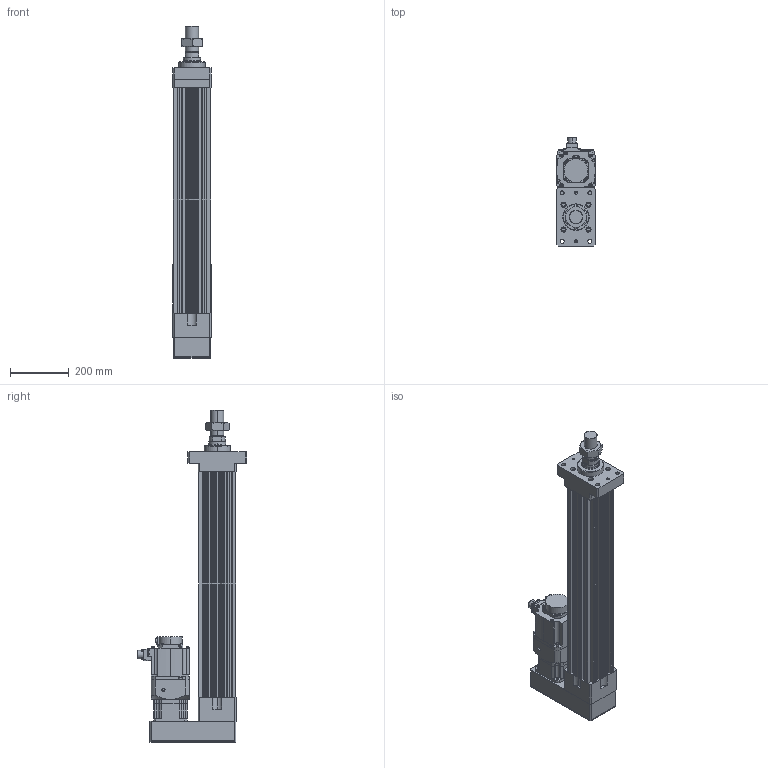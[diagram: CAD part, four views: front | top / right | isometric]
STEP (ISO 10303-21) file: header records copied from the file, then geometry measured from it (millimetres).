
FILE_DESCRIPTION (( 'STEP AP203' ), '1' );
FILE_NAME ('HES130NS(FS)(HS)-P550-W015G00-M-FMB.STEP', '2023-01-29T05:43:53', ( 'tms' ), ( '' ), 'SwSTEP 2.0', 'SolidWorks 2013', '' );
FILE_SCHEMA (( 'CONFIG_CONTROL_DESIGN' ));
Length unit declared in the file: millimetre
Products named in the file (8): HES130-P550-G120-FMB; AB115-003[HG-SR152]; HG-SR152; M45X1.5P; HES130NS(FS)(HS)-P550-W015G00-M-FMB; HES130 ROD M ST550; P0401400706; AB1151
Assembly tree (7 placements, depth 3):
  HES130NS(FS)(HS)-P550-W015G00-M-FMB
    HES130-P550-G120-FMB
    HES130 ROD M ST550
    M45X1.5P
    AB115-003[HG-SR152]
      AB1151
      P0401400706
    HG-SR152
Bounding box: 130 x 372.49 x 1132 mm (x, y, z)
Volume: 12846418.7 mm3; surface area: 1551533.8 mm2
Topology: 4 solids, 11 shells, 1082 faces, 2768 edges, 1799 vertices
Faces by surface type: cylinder 513, plane 489, cone 68, bspline 8, torus 4
Entity records: 34626 total; most frequent: CARTESIAN_POINT 6632, DIRECTION 5993, ORIENTED_EDGE 5484, EDGE_CURVE 2752, AXIS2_PLACEMENT_3D 2228, VERTEX_POINT 1799, VECTOR 1537, LINE 1537
